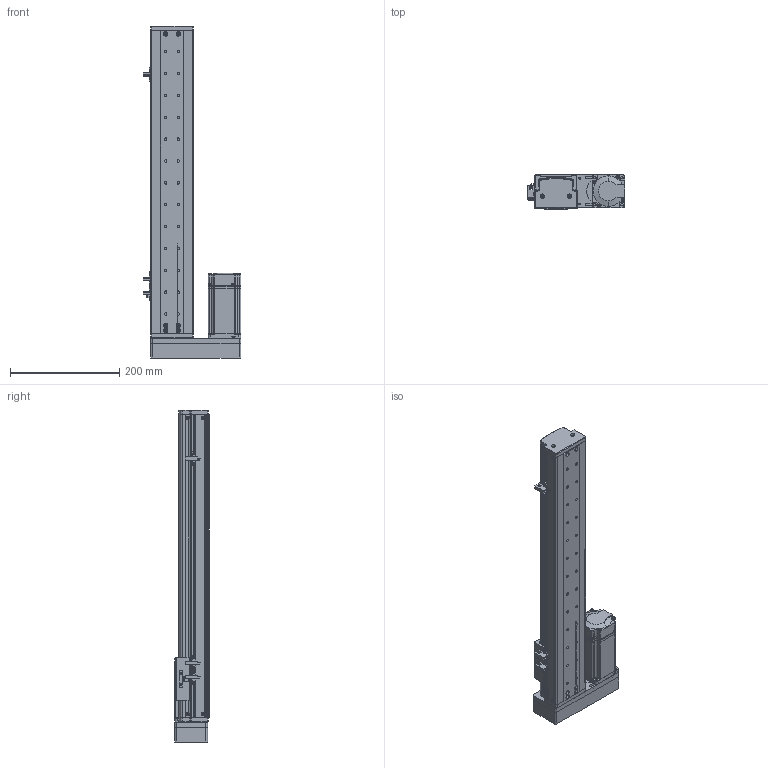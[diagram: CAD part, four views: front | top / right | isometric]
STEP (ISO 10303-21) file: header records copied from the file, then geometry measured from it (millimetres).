
FILE_DESCRIPTION (( 'STEP AP214' ), '1' );
FILE_NAME ('KSD75S-S400-ML-CM.STEP', '2019-10-18T06:56:07', ( '微软用户' ), ( '微软中国' ), 'SwSTEP 2.0', 'SolidWorks 2014', '' );
FILE_SCHEMA (( 'AUTOMOTIVE_DESIGN' ));
Length unit declared in the file: millimetre
Products named in the file (13): 75遵耀郪耜啣-400俴最; 75遵賑雄釱; 75裔啣-400俴最; ヶ傷啣; MGW15H賑寢400俴最 ; 400俴最; KSD75S-S400-ML-CM; 綴傷啣 ; U倰嫖萇EEㄜSX672; 覜茼え100遵圉猾敕; 75宽模组保护罩左右折; 75宽马达安装板连板左右折丝杆; MHMD042G1CA_2_03
Assembly tree (15 placements, depth 3):
  KSD75S-S400-ML-CM
    MGW15H賑寢400俴最 
      400俴最
    75遵賑雄釱
    75遵耀郪耜啣-400俴最  x2
    75裔啣-400俴最
    ヶ傷啣
    綴傷啣 
    U倰嫖萇EEㄜSX672  x3
    覜茼え100遵圉猾敕
    75宽马达安装板连板左右折丝杆
    75宽模组保护罩左右折
    MHMD042G1CA_2_03
Bounding box: 178.7 x 63 x 607.5 mm (x, y, z)
Volume: 835657.2 mm3; surface area: 525399.5 mm2
Topology: 13 solids, 14 shells, 1463 faces, 4138 edges, 2701 vertices
Faces by surface type: cylinder 691, plane 625, cone 129, bspline 18
Entity records: 46918 total; most frequent: CARTESIAN_POINT 8918, DIRECTION 7004, ORIENTED_EDGE 6556, EDGE_CURVE 3349, AXIS2_PLACEMENT_3D 2566, VERTEX_POINT 2219, LINE 1872, VECTOR 1872
